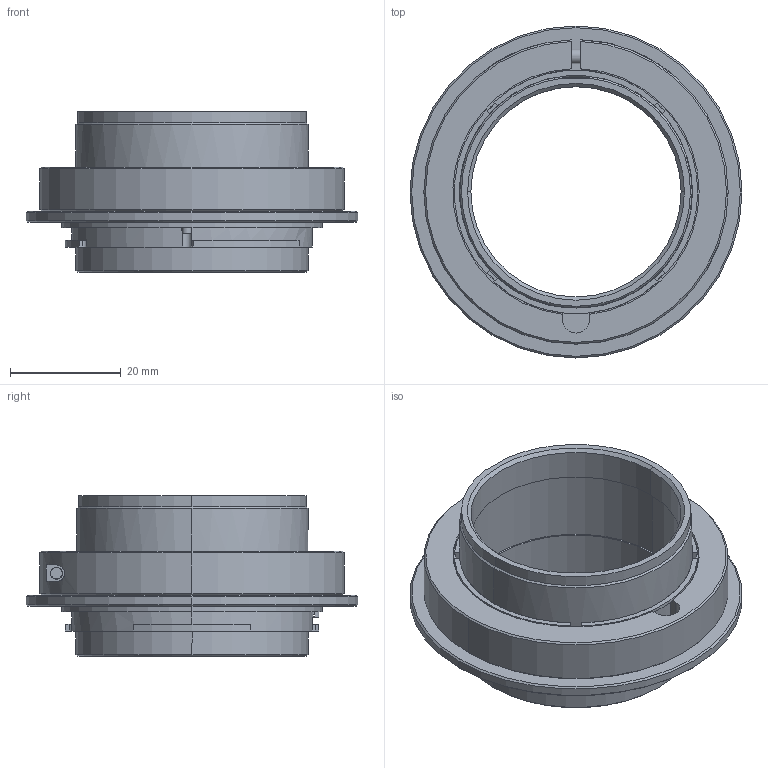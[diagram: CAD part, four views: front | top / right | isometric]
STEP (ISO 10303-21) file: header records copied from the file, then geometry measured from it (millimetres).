
FILE_DESCRIPTION (( 'STEP AP203' ), '1' );
FILE_NAME ('3d_C-C-ML-TUBE-F_a001.STEP', '2023-10-12T06:51:54', ( '' ), ( '' ), 'SwSTEP 2.0', 'SolidWorks 2020', '' );
FILE_SCHEMA (( 'CONFIG_CONTROL_DESIGN' ));
Length unit declared in the file: millimetre
Products named in the file (1): 3d_C-C-ML-TUBE-F_a001
Bounding box: 60 x 60 x 29 mm (x, y, z)
Volume: 17022.3 mm3; surface area: 13280.2 mm2
Topology: 1 solids, 3 shells, 319 faces, 850 edges, 547 vertices
Faces by surface type: plane 190, cylinder 79, cone 46, torus 4
Entity records: 10132 total; most frequent: CARTESIAN_POINT 1897, DIRECTION 1729, ORIENTED_EDGE 1692, EDGE_CURVE 846, AXIS2_PLACEMENT_3D 599, VERTEX_POINT 547, VECTOR 531, LINE 531
